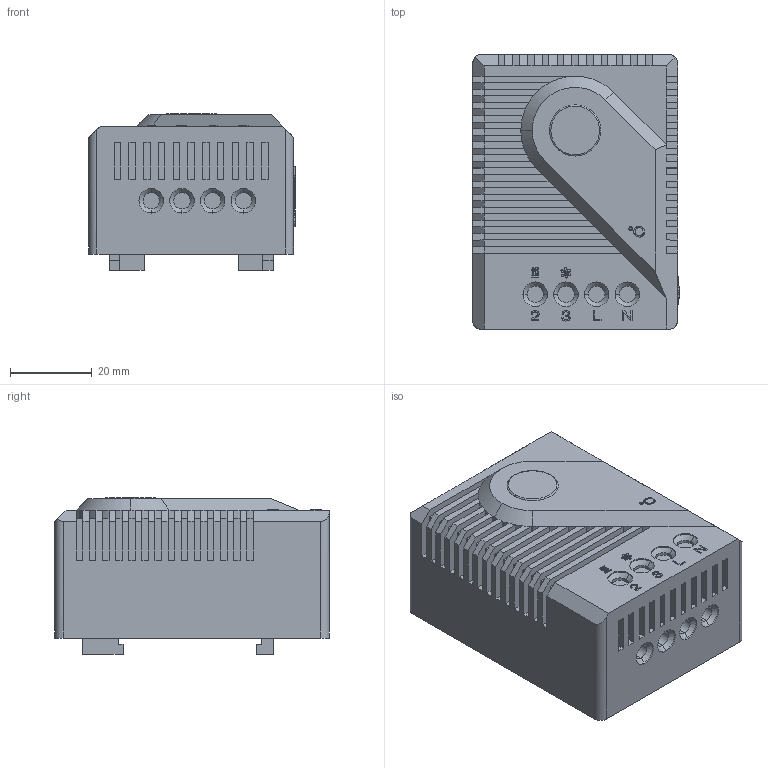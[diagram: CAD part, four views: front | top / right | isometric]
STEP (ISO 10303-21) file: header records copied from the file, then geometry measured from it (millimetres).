
FILE_DESCRIPTION (( 'STEP AP214' ), '1' );
FILE_NAME ('FZK_01170_12_2012.STEP', '2012-12-04T16:00:27', ( 'Nutzer' ), ( '' ), 'SwSTEP 2.0', 'SolidWorks 2012', '' );
FILE_SCHEMA (( 'AUTOMOTIVE_DESIGN' ));
Length unit declared in the file: millimetre
Products named in the file (1): FZK_01170_12_2012
Bounding box: 50.4 x 67 x 38.3 mm (x, y, z)
Volume: 103692.8 mm3; surface area: 18712.3 mm2
Topology: 2 solids, 2 shells, 788 faces, 2123 edges, 1381 vertices
Faces by surface type: plane 515, bspline 207, cylinder 46, cone 18, torus 2
Entity records: 27451 total; most frequent: CARTESIAN_POINT 9041, ORIENTED_EDGE 4246, DIRECTION 2972, EDGE_CURVE 2123, VECTOR 1596, LINE 1596, VERTEX_POINT 1381, EDGE_LOOP 830
